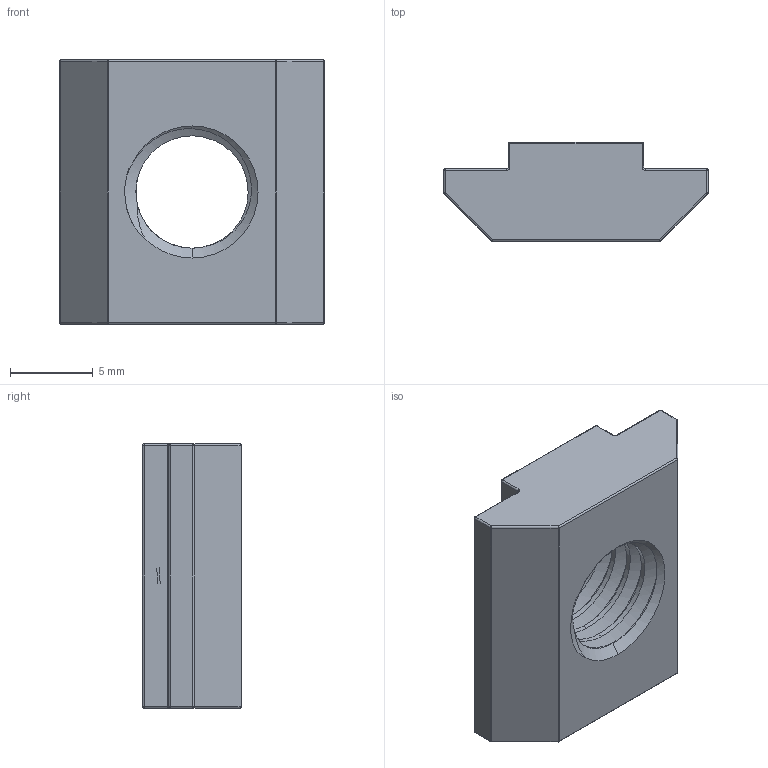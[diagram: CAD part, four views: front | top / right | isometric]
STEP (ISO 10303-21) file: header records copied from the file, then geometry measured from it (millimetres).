
FILE_DESCRIPTION (( 'STEP AP203' ), '1' );
FILE_NAME ('TANLN-AL-30-M8.STEP', '2026-08-25T08:03:26', ( '' ), ( '' ), 'SwSTEP 2.0', 'SolidWorks 2020', '' );
FILE_SCHEMA (( 'CONFIG_CONTROL_DESIGN' ));
Length unit declared in the file: millimetre
Products named in the file (1): TANLN-AL-30-M8
Bounding box: 16 x 6 x 16 mm (x, y, z)
Volume: 939.9 mm3; surface area: 921.3 mm2
Topology: 1 solids, 1 shells, 81 faces, 193 edges, 101 vertices
Faces by surface type: cylinder 40, sphere 16, plane 13, cone 5, torus 4, bspline 3
Entity records: 3376 total; most frequent: CARTESIAN_POINT 1561, DIRECTION 380, ORIENTED_EDGE 362, EDGE_CURVE 181, AXIS2_PLACEMENT_3D 153, VERTEX_POINT 101, EDGE_LOOP 82, FACE_OUTER_BOUND 81
